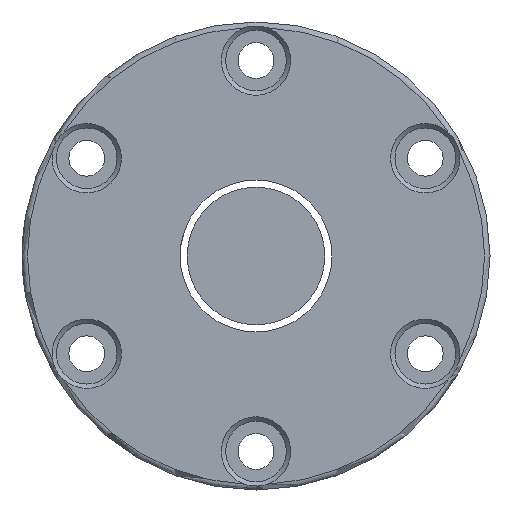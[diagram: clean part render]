
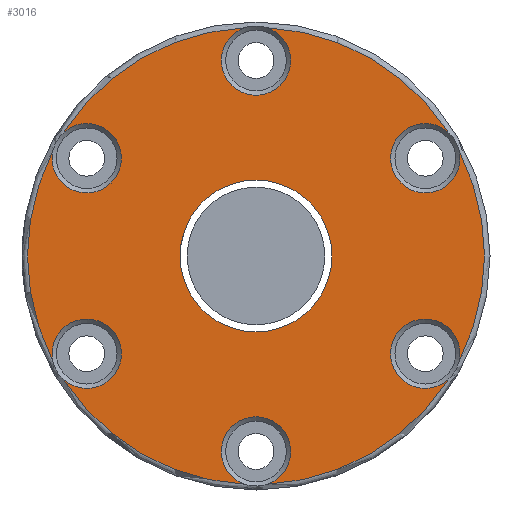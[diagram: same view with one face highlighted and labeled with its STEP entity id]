
A CAD part, left-side view. The second image highlights one B-rep face of the part: STEP entity #3016.
In plain terms, the highlighted planar face has unit normal (-1, 0, 0).
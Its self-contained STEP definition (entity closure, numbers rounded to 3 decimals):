
#18 = ORIENTED_EDGE ( 'NONE', *, *, #2687, .T. ) ;
#25 = AXIS2_PLACEMENT_3D ( 'NONE', #755, #2360, #1468 ) ;
#55 = CIRCLE ( 'NONE', #2083, 6.3 ) ;
#84 = DIRECTION ( 'NONE',  ( 0., 0., 1. ) ) ;
#96 = AXIS2_PLACEMENT_3D ( 'NONE', #2900, #2700, #1015 ) ;
#124 = DIRECTION ( 'NONE',  ( 0., 0., 1. ) ) ;
#157 = ORIENTED_EDGE ( 'NONE', *, *, #1910, .T. ) ;
#180 = DIRECTION ( 'NONE',  ( -1., 0., 0. ) ) ;
#223 = VERTEX_POINT ( 'NONE', #489 ) ;
#236 = CARTESIAN_POINT ( 'NONE',  ( -70., 0., 0. ) ) ;
#295 = CIRCLE ( 'NONE', #1532, 41.5 ) ;
#300 = EDGE_CURVE ( 'NONE', #223, #2821, #1436, .T. ) ;
#309 = PLANE ( 'NONE',  #96 ) ;
#357 = ORIENTED_EDGE ( 'NONE', *, *, #979, .T. ) ;
#404 = ORIENTED_EDGE ( 'NONE', *, *, #2550, .T. ) ;
#466 = ORIENTED_EDGE ( 'NONE', *, *, #1028, .T. ) ;
#489 = CARTESIAN_POINT ( 'NONE',  ( -70., -34.857, -22.522 ) ) ;
#527 = CARTESIAN_POINT ( 'NONE',  ( -70., 34.857, -22.522 ) ) ;
#544 = DIRECTION ( 'NONE',  ( 1., 0., 0. ) ) ;
#554 = AXIS2_PLACEMENT_3D ( 'NONE', #2711, #661, #124 ) ;
#559 = CARTESIAN_POINT ( 'NONE',  ( -70., 0., 0. ) ) ;
#570 = CARTESIAN_POINT ( 'NONE',  ( -70., 2.076, -41.448 ) ) ;
#584 = CIRCLE ( 'NONE', #2621, 6.3 ) ;
#639 = CARTESIAN_POINT ( 'NONE',  ( -70., 0., -13.8 ) ) ;
#651 = ORIENTED_EDGE ( 'NONE', *, *, #2367, .T. ) ;
#661 = DIRECTION ( 'NONE',  ( 1., 0., 0. ) ) ;
#691 = CARTESIAN_POINT ( 'NONE',  ( -70., 0., -35.5 ) ) ;
#697 = VERTEX_POINT ( 'NONE', #3051 ) ;
#742 = DIRECTION ( 'NONE',  ( 0., 0., 1. ) ) ;
#744 = CARTESIAN_POINT ( 'NONE',  ( -70., -36.933, 18.926 ) ) ;
#755 = CARTESIAN_POINT ( 'NONE',  ( -70., 0., 0. ) ) ;
#758 = DIRECTION ( 'NONE',  ( 0., 0., 1. ) ) ;
#766 = CARTESIAN_POINT ( 'NONE',  ( -70., 30.744, -17.75 ) ) ;
#779 = FACE_OUTER_BOUND ( 'NONE', #1143, .T. ) ;
#785 = CARTESIAN_POINT ( 'NONE',  ( -70., 0., 0. ) ) ;
#896 = ORIENTED_EDGE ( 'NONE', *, *, #1476, .T. ) ;
#901 = EDGE_CURVE ( 'NONE', #2090, #223, #1439, .T. ) ;
#979 = EDGE_CURVE ( 'NONE', #2821, #2823, #295, .T. ) ;
#1015 = DIRECTION ( 'NONE',  ( 0., 0., 1. ) ) ;
#1022 = ORIENTED_EDGE ( 'NONE', *, *, #300, .T. ) ;
#1028 = EDGE_CURVE ( 'NONE', #2823, #1356, #1926, .T. ) ;
#1031 = FACE_BOUND ( 'NONE', #2337, .T. ) ;
#1032 = AXIS2_PLACEMENT_3D ( 'NONE', #2921, #544, #84 ) ;
#1124 = DIRECTION ( 'NONE',  ( 0., 0., 1. ) ) ;
#1143 = EDGE_LOOP ( 'NONE', ( #1605, #404, #896, #157, #2502, #651, #18, #1489, #1022, #357, #466, #3005 ) ) ;
#1147 = DIRECTION ( 'NONE',  ( 1., 0., 0. ) ) ;
#1152 = AXIS2_PLACEMENT_3D ( 'NONE', #691, #1911, #758 ) ;
#1200 = CARTESIAN_POINT ( 'NONE',  ( -70., 2.076, 41.448 ) ) ;
#1225 = DIRECTION ( 'NONE',  ( 0., 0., 1. ) ) ;
#1240 = AXIS2_PLACEMENT_3D ( 'NONE', #2547, #1290, #2944 ) ;
#1246 = DIRECTION ( 'NONE',  ( 1., 0., 0. ) ) ;
#1266 = DIRECTION ( 'NONE',  ( -1., 0., 0. ) ) ;
#1290 = DIRECTION ( 'NONE',  ( -1., 0., 0. ) ) ;
#1356 = VERTEX_POINT ( 'NONE', #2796 ) ;
#1415 = CARTESIAN_POINT ( 'NONE',  ( -70., -36.933, -18.926 ) ) ;
#1436 = CIRCLE ( 'NONE', #1676, 6.3 ) ;
#1439 = CIRCLE ( 'NONE', #1679, 41.5 ) ;
#1468 = DIRECTION ( 'NONE',  ( 0., 0., -1. ) ) ;
#1476 = EDGE_CURVE ( 'NONE', #697, #2585, #55, .T. ) ;
#1489 = ORIENTED_EDGE ( 'NONE', *, *, #901, .T. ) ;
#1502 = CARTESIAN_POINT ( 'NONE',  ( -70., 0., 0. ) ) ;
#1532 = AXIS2_PLACEMENT_3D ( 'NONE', #559, #2198, #1730 ) ;
#1605 = ORIENTED_EDGE ( 'NONE', *, *, #2270, .T. ) ;
#1645 = CIRCLE ( 'NONE', #2737, 41.5 ) ;
#1676 = AXIS2_PLACEMENT_3D ( 'NONE', #1698, #1957, #742 ) ;
#1679 = AXIS2_PLACEMENT_3D ( 'NONE', #785, #1266, #1225 ) ;
#1698 = CARTESIAN_POINT ( 'NONE',  ( -70., -30.744, -17.75 ) ) ;
#1715 = EDGE_CURVE ( 'NONE', #1356, #2808, #2234, .T. ) ;
#1730 = DIRECTION ( 'NONE',  ( 0., 0., 1. ) ) ;
#1910 = EDGE_CURVE ( 'NONE', #2585, #2856, #2681, .T. ) ;
#1911 = DIRECTION ( 'NONE',  ( 1., 0., 0. ) ) ;
#1920 = CARTESIAN_POINT ( 'NONE',  ( -70., -2.076, 41.448 ) ) ;
#1926 = CIRCLE ( 'NONE', #1032, 6.3 ) ;
#1957 = DIRECTION ( 'NONE',  ( 1., 0., 0. ) ) ;
#2018 = DIRECTION ( 'NONE',  ( 0., 0., 1. ) ) ;
#2046 = DIRECTION ( 'NONE',  ( 0., 0., 1. ) ) ;
#2075 = CARTESIAN_POINT ( 'NONE',  ( -70., 30.744, 17.75 ) ) ;
#2083 = AXIS2_PLACEMENT_3D ( 'NONE', #2075, #1147, #2096 ) ;
#2086 = CARTESIAN_POINT ( 'NONE',  ( -70., -2.076, -41.448 ) ) ;
#2089 = DIRECTION ( 'NONE',  ( -1., 0., 0. ) ) ;
#2090 = VERTEX_POINT ( 'NONE', #2086 ) ;
#2096 = DIRECTION ( 'NONE',  ( 0., 0., 1. ) ) ;
#2097 = AXIS2_PLACEMENT_3D ( 'NONE', #1502, #2447, #2018 ) ;
#2198 = DIRECTION ( 'NONE',  ( -1., 0., 0. ) ) ;
#2234 = CIRCLE ( 'NONE', #2842, 41.5 ) ;
#2270 = EDGE_CURVE ( 'NONE', #2808, #2708, #2846, .T. ) ;
#2337 = EDGE_LOOP ( 'NONE', ( #2962 ) ) ;
#2360 = DIRECTION ( 'NONE',  ( 1., 0., 0. ) ) ;
#2367 = EDGE_CURVE ( 'NONE', #2791, #3053, #2989, .T. ) ;
#2425 = CARTESIAN_POINT ( 'NONE',  ( -70., 36.933, -18.926 ) ) ;
#2447 = DIRECTION ( 'NONE',  ( -1., 0., 0. ) ) ;
#2502 = ORIENTED_EDGE ( 'NONE', *, *, #3018, .T. ) ;
#2536 = CIRCLE ( 'NONE', #1152, 6.3 ) ;
#2547 = CARTESIAN_POINT ( 'NONE',  ( -70., 0., 0. ) ) ;
#2550 = EDGE_CURVE ( 'NONE', #2708, #697, #1645, .T. ) ;
#2585 = VERTEX_POINT ( 'NONE', #2999 ) ;
#2621 = AXIS2_PLACEMENT_3D ( 'NONE', #766, #1246, #2948 ) ;
#2681 = CIRCLE ( 'NONE', #2097, 41.5 ) ;
#2686 = CIRCLE ( 'NONE', #25, 13.8 ) ;
#2687 = EDGE_CURVE ( 'NONE', #3053, #2090, #2536, .T. ) ;
#2700 = DIRECTION ( 'NONE',  ( -1., 0., 0. ) ) ;
#2708 = VERTEX_POINT ( 'NONE', #1200 ) ;
#2711 = CARTESIAN_POINT ( 'NONE',  ( -70., 0., 35.5 ) ) ;
#2737 = AXIS2_PLACEMENT_3D ( 'NONE', #3031, #180, #2046 ) ;
#2761 = VERTEX_POINT ( 'NONE', #639 ) ;
#2791 = VERTEX_POINT ( 'NONE', #527 ) ;
#2796 = CARTESIAN_POINT ( 'NONE',  ( -70., -34.857, 22.522 ) ) ;
#2808 = VERTEX_POINT ( 'NONE', #1920 ) ;
#2821 = VERTEX_POINT ( 'NONE', #1415 ) ;
#2822 = EDGE_CURVE ( 'NONE', #2761, #2761, #2686, .T. ) ;
#2823 = VERTEX_POINT ( 'NONE', #744 ) ;
#2842 = AXIS2_PLACEMENT_3D ( 'NONE', #236, #2089, #1124 ) ;
#2846 = CIRCLE ( 'NONE', #554, 6.3 ) ;
#2856 = VERTEX_POINT ( 'NONE', #2425 ) ;
#2900 = CARTESIAN_POINT ( 'NONE',  ( -70., 42.5, 0. ) ) ;
#2921 = CARTESIAN_POINT ( 'NONE',  ( -70., -30.744, 17.75 ) ) ;
#2944 = DIRECTION ( 'NONE',  ( 0., 0., 1. ) ) ;
#2948 = DIRECTION ( 'NONE',  ( 0., 0., 1. ) ) ;
#2962 = ORIENTED_EDGE ( 'NONE', *, *, #2822, .T. ) ;
#2989 = CIRCLE ( 'NONE', #1240, 41.5 ) ;
#2999 = CARTESIAN_POINT ( 'NONE',  ( -70., 36.933, 18.926 ) ) ;
#3005 = ORIENTED_EDGE ( 'NONE', *, *, #1715, .T. ) ;
#3016 = ADVANCED_FACE ( 'NONE', ( #779, #1031 ), #309, .T. ) ;
#3018 = EDGE_CURVE ( 'NONE', #2856, #2791, #584, .T. ) ;
#3031 = CARTESIAN_POINT ( 'NONE',  ( -70., 0., 0. ) ) ;
#3051 = CARTESIAN_POINT ( 'NONE',  ( -70., 34.857, 22.522 ) ) ;
#3053 = VERTEX_POINT ( 'NONE', #570 ) ;
